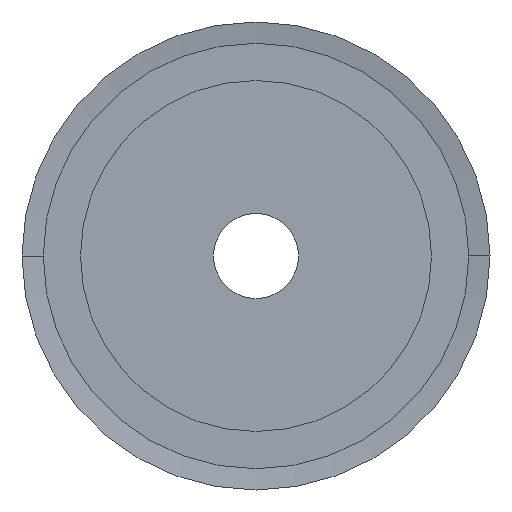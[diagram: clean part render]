
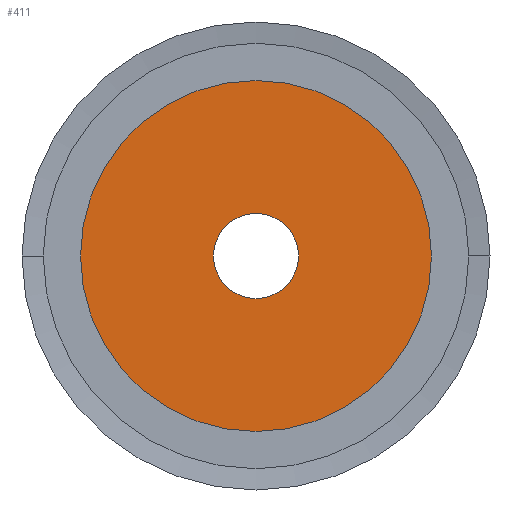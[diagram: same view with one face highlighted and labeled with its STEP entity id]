
A CAD part, left-side view. The second image highlights one B-rep face of the part: STEP entity #411.
In plain terms, the highlighted planar face has unit normal (-1, 0, 0).
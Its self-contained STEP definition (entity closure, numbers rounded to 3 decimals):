
#411 = ADVANCED_FACE( '', ( #1089, #1090 ), #1091, .T. );
#1089 = FACE_BOUND( '', #1768, .T. );
#1090 = FACE_OUTER_BOUND( '', #1769, .T. );
#1091 = PLANE( '', #1770 );
#1768 = EDGE_LOOP( '', ( #4543, #4544 ) );
#1769 = EDGE_LOOP( '', ( #4545, #4546 ) );
#1770 = AXIS2_PLACEMENT_3D( '', #4547, #4548, #4549 );
#4543 = ORIENTED_EDGE( '', *, *, #4641, .T. );
#4544 = ORIENTED_EDGE( '', *, *, #4637, .T. );
#4545 = ORIENTED_EDGE( '', *, *, #4553, .T. );
#4546 = ORIENTED_EDGE( '', *, *, #5433, .T. );
#4547 = CARTESIAN_POINT( '', ( 0., 8.25, 0. ) );
#4548 = DIRECTION( '', ( -1., 0., 0. ) );
#4549 = DIRECTION( '', ( 0., 1., 0. ) );
#4553 = EDGE_CURVE( '', #5435, #5439, #5441, .T. );
#4637 = EDGE_CURVE( '', #5603, #5600, #5604, .T. );
#4641 = EDGE_CURVE( '', #5600, #5603, #5609, .T. );
#5433 = EDGE_CURVE( '', #5439, #5435, #6869, .T. );
#5435 = VERTEX_POINT( '', #6871 );
#5439 = VERTEX_POINT( '', #6876 );
#5441 = CIRCLE( '', #6879, 16.5 );
#5600 = VERTEX_POINT( '', #7054 );
#5603 = VERTEX_POINT( '', #7058 );
#5604 = CIRCLE( '', #7059, 4. );
#5609 = CIRCLE( '', #7065, 4. );
#6869 = CIRCLE( '', #8689, 16.5 );
#6871 = CARTESIAN_POINT( '', ( 0., 16.5, 0. ) );
#6876 = CARTESIAN_POINT( '', ( 0., -16.5, 0. ) );
#6879 = AXIS2_PLACEMENT_3D( '', #8695, #8696, #8697 );
#7054 = CARTESIAN_POINT( '', ( 0., 4., 0. ) );
#7058 = CARTESIAN_POINT( '', ( 0., -4., 0. ) );
#7059 = AXIS2_PLACEMENT_3D( '', #8913, #8914, #8915 );
#7065 = AXIS2_PLACEMENT_3D( '', #8923, #8924, #8925 );
#8689 = AXIS2_PLACEMENT_3D( '', #10571, #10572, #10573 );
#8695 = CARTESIAN_POINT( '', ( 0., 0., 0. ) );
#8696 = DIRECTION( '', ( -1., 0., 0. ) );
#8697 = DIRECTION( '', ( 0., 1., 0. ) );
#8913 = CARTESIAN_POINT( '', ( 0., 0., 0. ) );
#8914 = DIRECTION( '', ( 1., 0., 0. ) );
#8915 = DIRECTION( '', ( 0., 1., 0. ) );
#8923 = CARTESIAN_POINT( '', ( 0., 0., 0. ) );
#8924 = DIRECTION( '', ( 1., 0., 0. ) );
#8925 = DIRECTION( '', ( 0., 1., 0. ) );
#10571 = CARTESIAN_POINT( '', ( 0., 0., 0. ) );
#10572 = DIRECTION( '', ( -1., 0., 0. ) );
#10573 = DIRECTION( '', ( 0., 1., 0. ) );
